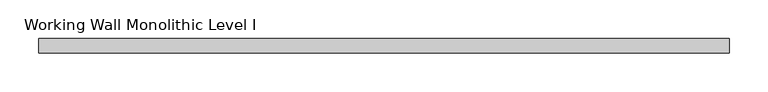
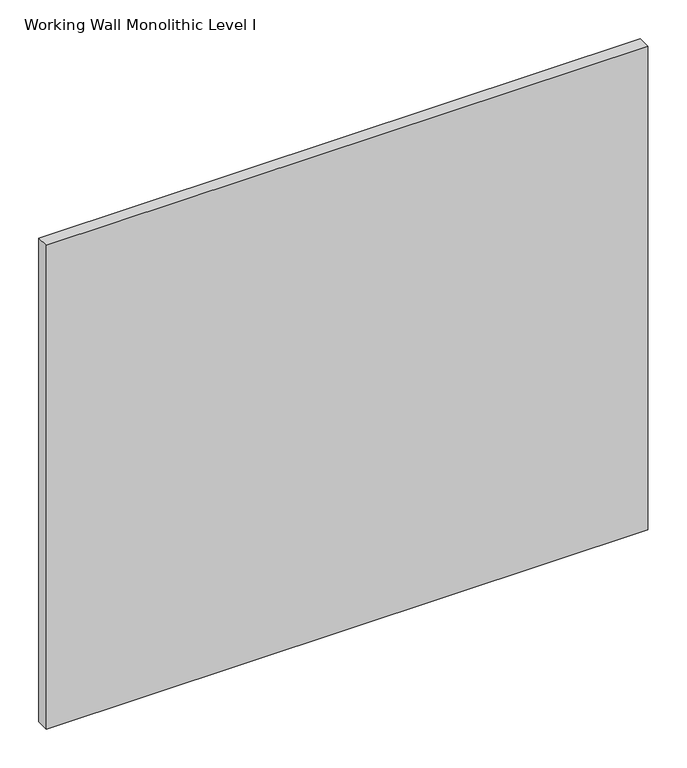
"""IFC4 building model written with IfcOpenShell, lengths in millimetres: proxy geometry, Panel-Fascia-Teknion-Altos-Standard : Working Wall Monolithic Level I."""

from ifc_helpers import new_model, si_unit, frame, origin, place, context, project, spatial, polyline, outline, extrude, source, transform, mapped, element, save


def working_wall_monolithic_level_i_dc7e04ae(model_context):
    return source(origin(), model_context, "Body", "SweptSolid", [
        extrude(outline(polyline([(447.0300781, -9.525), (-447.0300781, -9.525), (-447.0300781, 9.525), (447.0300781, 9.525), (447.0300781, -9.525)])), frame((0.0, 0.0, 3.175), z_axis=(0.0, 0.0, 1.0), x_axis=(1.0, 0.0, 0.0)), (0.0, 0.0, 1.0), 759.968),
    ])


if __name__ == "__main__":
    model = new_model("IFC4")
    model_context = context("Model", 3, world=origin())
    ifc_project = project(units=[si_unit("LENGTHUNIT", "METRE", prefix="MILLI")], contexts=[model_context])
    site = spatial("IfcSite", under=ifc_project)
    building = spatial("IfcBuilding", under=site)
    placement = place(None, origin())
    working_wall_monolithic_level_i_shape = working_wall_monolithic_level_i_dc7e04ae(model_context)
    element("IfcBuildingElementProxy", 1, Name="Panel-Fascia-Teknion-Altos-Standard : Working Wall Monolithic Level I", ObjectType="Panel-Fascia-Teknion-Altos-Standard : Working Wall Monolithic Level I", at=placement, inside=building, context=model_context, shape_type="MappedRepresentation", body=[
        mapped(working_wall_monolithic_level_i_shape, transform((0.0, 0.0, 0.0), x_axis=(1.0, 0.0, 0.0), y_axis=(0.0, 1.0, 0.0), z_axis=(0.0, 0.0, 1.0))),
    ])
    save(model, "model.ifc")
